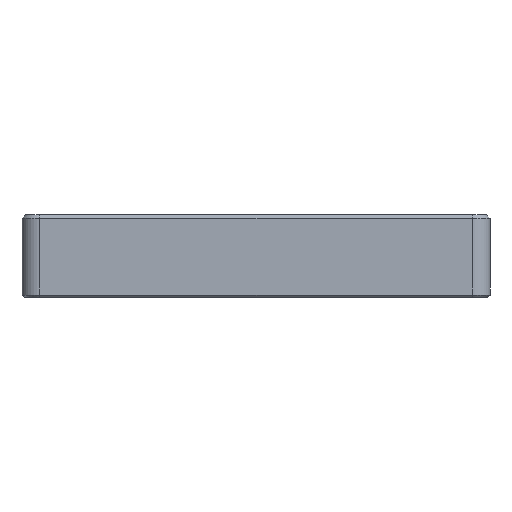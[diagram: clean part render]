
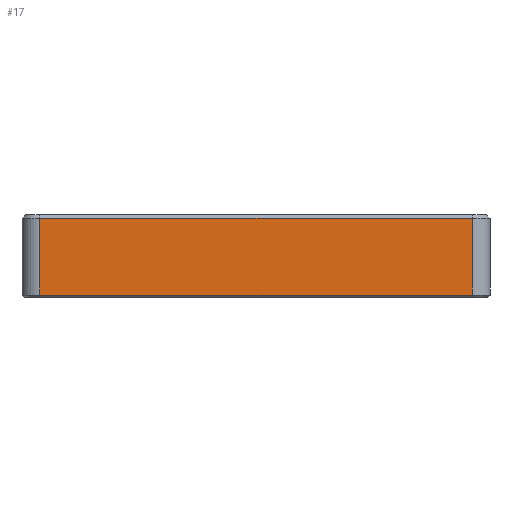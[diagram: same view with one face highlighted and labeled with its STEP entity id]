
A CAD part, left-side view. The second image highlights one B-rep face of the part: STEP entity #17.
In plain terms, the highlighted planar face has unit normal (-1, 0, 0).
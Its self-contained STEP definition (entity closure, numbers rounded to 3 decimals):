
#17 = ADVANCED_FACE('',(#18),#32,.F.);
#18 = FACE_BOUND('',#19,.F.);
#19 = EDGE_LOOP('',(#20,#55,#83,#111));
#20 = ORIENTED_EDGE('',*,*,#21,.F.);
#21 = EDGE_CURVE('',#22,#24,#26,.T.);
#22 = VERTEX_POINT('',#23);
#23 = CARTESIAN_POINT('',(0.,-49.,0.5));
#24 = VERTEX_POINT('',#25);
#25 = CARTESIAN_POINT('',(0.,-49.,17.9));
#26 = SURFACE_CURVE('',#27,(#31,#43),.PCURVE_S1.);
#27 = LINE('',#28,#29);
#28 = CARTESIAN_POINT('',(0.,-49.,0.));
#29 = VECTOR('',#30,1.);
#30 = DIRECTION('',(0.,0.,1.));
#31 = PCURVE('',#32,#37);
#32 = PLANE('',#33);
#33 = AXIS2_PLACEMENT_3D('',#34,#35,#36);
#34 = CARTESIAN_POINT('',(0.,-53.,0.));
#35 = DIRECTION('',(1.,0.,-0.));
#36 = DIRECTION('',(0.,0.,1.));
#37 = DEFINITIONAL_REPRESENTATION('',(#38),#42);
#38 = LINE('',#39,#40);
#39 = CARTESIAN_POINT('',(0.,-4.));
#40 = VECTOR('',#41,1.);
#41 = DIRECTION('',(1.,0.));
#42 = ( GEOMETRIC_REPRESENTATION_CONTEXT(2) 
PARAMETRIC_REPRESENTATION_CONTEXT() REPRESENTATION_CONTEXT('2D SPACE',''
  ) );
#43 = PCURVE('',#44,#49);
#44 = CYLINDRICAL_SURFACE('',#45,4.);
#45 = AXIS2_PLACEMENT_3D('',#46,#47,#48);
#46 = CARTESIAN_POINT('',(4.,-49.,0.));
#47 = DIRECTION('',(0.,0.,1.));
#48 = DIRECTION('',(-1.,-0.,0.));
#49 = DEFINITIONAL_REPRESENTATION('',(#50),#54);
#50 = LINE('',#51,#52);
#51 = CARTESIAN_POINT('',(0.,0.));
#52 = VECTOR('',#53,1.);
#53 = DIRECTION('',(0.,1.));
#54 = ( GEOMETRIC_REPRESENTATION_CONTEXT(2) 
PARAMETRIC_REPRESENTATION_CONTEXT() REPRESENTATION_CONTEXT('2D SPACE',''
  ) );
#55 = ORIENTED_EDGE('',*,*,#56,.T.);
#56 = EDGE_CURVE('',#22,#57,#59,.T.);
#57 = VERTEX_POINT('',#58);
#58 = CARTESIAN_POINT('',(0.,49.,0.5));
#59 = SURFACE_CURVE('',#60,(#64,#71),.PCURVE_S1.);
#60 = LINE('',#61,#62);
#61 = CARTESIAN_POINT('',(0.,-49.,0.5));
#62 = VECTOR('',#63,1.);
#63 = DIRECTION('',(-0.,1.,0.));
#64 = PCURVE('',#32,#65);
#65 = DEFINITIONAL_REPRESENTATION('',(#66),#70);
#66 = LINE('',#67,#68);
#67 = CARTESIAN_POINT('',(0.5,-4.));
#68 = VECTOR('',#69,1.);
#69 = DIRECTION('',(0.,-1.));
#70 = ( GEOMETRIC_REPRESENTATION_CONTEXT(2) 
PARAMETRIC_REPRESENTATION_CONTEXT() REPRESENTATION_CONTEXT('2D SPACE',''
  ) );
#71 = PCURVE('',#72,#77);
#72 = PLANE('',#73);
#73 = AXIS2_PLACEMENT_3D('',#74,#75,#76);
#74 = CARTESIAN_POINT('',(0.25,-49.,0.25));
#75 = DIRECTION('',(-0.707,0.,-0.707));
#76 = DIRECTION('',(0.,1.,0.));
#77 = DEFINITIONAL_REPRESENTATION('',(#78),#82);
#78 = LINE('',#79,#80);
#79 = CARTESIAN_POINT('',(0.,-0.354));
#80 = VECTOR('',#81,1.);
#81 = DIRECTION('',(1.,0.));
#82 = ( GEOMETRIC_REPRESENTATION_CONTEXT(2) 
PARAMETRIC_REPRESENTATION_CONTEXT() REPRESENTATION_CONTEXT('2D SPACE',''
  ) );
#83 = ORIENTED_EDGE('',*,*,#84,.T.);
#84 = EDGE_CURVE('',#57,#85,#87,.T.);
#85 = VERTEX_POINT('',#86);
#86 = CARTESIAN_POINT('',(0.,49.,17.9));
#87 = SURFACE_CURVE('',#88,(#92,#99),.PCURVE_S1.);
#88 = LINE('',#89,#90);
#89 = CARTESIAN_POINT('',(0.,49.,0.));
#90 = VECTOR('',#91,1.);
#91 = DIRECTION('',(0.,0.,1.));
#92 = PCURVE('',#32,#93);
#93 = DEFINITIONAL_REPRESENTATION('',(#94),#98);
#94 = LINE('',#95,#96);
#95 = CARTESIAN_POINT('',(0.,-102.));
#96 = VECTOR('',#97,1.);
#97 = DIRECTION('',(1.,0.));
#98 = ( GEOMETRIC_REPRESENTATION_CONTEXT(2) 
PARAMETRIC_REPRESENTATION_CONTEXT() REPRESENTATION_CONTEXT('2D SPACE',''
  ) );
#99 = PCURVE('',#100,#105);
#100 = CYLINDRICAL_SURFACE('',#101,4.);
#101 = AXIS2_PLACEMENT_3D('',#102,#103,#104);
#102 = CARTESIAN_POINT('',(4.,49.,0.));
#103 = DIRECTION('',(0.,0.,1.));
#104 = DIRECTION('',(-1.,-0.,0.));
#105 = DEFINITIONAL_REPRESENTATION('',(#106),#110);
#106 = LINE('',#107,#108);
#107 = CARTESIAN_POINT('',(-0.,0.));
#108 = VECTOR('',#109,1.);
#109 = DIRECTION('',(-0.,1.));
#110 = ( GEOMETRIC_REPRESENTATION_CONTEXT(2) 
PARAMETRIC_REPRESENTATION_CONTEXT() REPRESENTATION_CONTEXT('2D SPACE',''
  ) );
#111 = ORIENTED_EDGE('',*,*,#112,.F.);
#112 = EDGE_CURVE('',#24,#85,#113,.T.);
#113 = SURFACE_CURVE('',#114,(#118,#125),.PCURVE_S1.);
#114 = LINE('',#115,#116);
#115 = CARTESIAN_POINT('',(0.,-49.,17.9));
#116 = VECTOR('',#117,1.);
#117 = DIRECTION('',(-0.,1.,0.));
#118 = PCURVE('',#32,#119);
#119 = DEFINITIONAL_REPRESENTATION('',(#120),#124);
#120 = LINE('',#121,#122);
#121 = CARTESIAN_POINT('',(17.9,-4.));
#122 = VECTOR('',#123,1.);
#123 = DIRECTION('',(0.,-1.));
#124 = ( GEOMETRIC_REPRESENTATION_CONTEXT(2) 
PARAMETRIC_REPRESENTATION_CONTEXT() REPRESENTATION_CONTEXT('2D SPACE',''
  ) );
#125 = PCURVE('',#126,#131);
#126 = PLANE('',#127);
#127 = AXIS2_PLACEMENT_3D('',#128,#129,#130);
#128 = CARTESIAN_POINT('',(0.4,-49.,18.3));
#129 = DIRECTION('',(0.707,0.,-0.707)
  );
#130 = DIRECTION('',(0.,1.,0.));
#131 = DEFINITIONAL_REPRESENTATION('',(#132),#136);
#132 = LINE('',#133,#134);
#133 = CARTESIAN_POINT('',(0.,-0.566));
#134 = VECTOR('',#135,1.);
#135 = DIRECTION('',(1.,0.));
#136 = ( GEOMETRIC_REPRESENTATION_CONTEXT(2) 
PARAMETRIC_REPRESENTATION_CONTEXT() REPRESENTATION_CONTEXT('2D SPACE',''
  ) );
